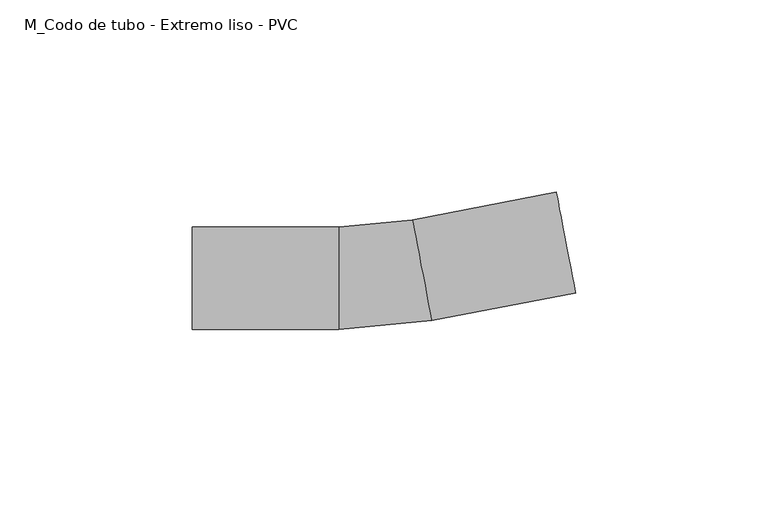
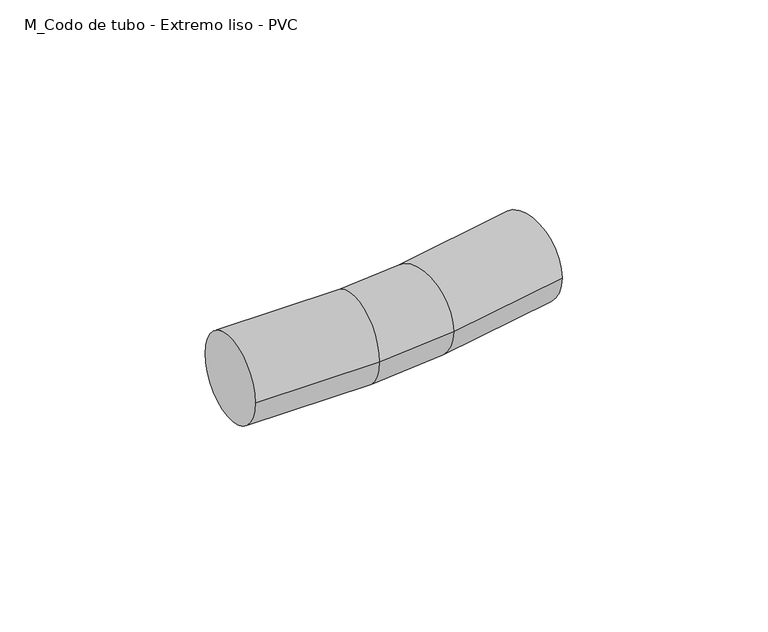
"""IFC4 building model written with IfcOpenShell, lengths in millimetres: cable carrier fitting geometry, M_Codo de tubo - Extremo liso - PVC : CODO ILUMINACION."""

from ifc_helpers import new_model, si_unit, point, frame, origin, place, context, project, spatial, circle_curve, ellipse_curve, trimmed, source, transform, mapped, element, save
from ifc_brep_helpers import plane_surface, cylinder_surface, revolved_surface, advanced_brep


def m_codo_de_tubo_extremo_liso_pvc_f0e475e2(model_context):
    return source(origin(), model_context, "Body", "AdvancedBrep", [
        advanced_brep(
        [(-48.9948498, -13.335, 0.0), (-48.9948498, 13.335, 0.0), (-10.8948498, -13.335, 0.0), (-10.8948498, 13.335, 0.0), (8.1794184, 15.1531215, 0.0), (13.2179044, -11.03662, 0.0), (50.6318208, -3.8387829, 0.0), (45.5933349, 22.3509586, 0.0)],
        [
            (0, 1, circle_curve(frame((-48.9948498, 0.0, 0.0), z_axis=(-1.0, 0.0, 0.0), x_axis=(0.0, 1.0, 0.0)), 13.335)),
            (1, 0, circle_curve(frame((-48.9948498, 0.0, 0.0), z_axis=(-1.0, 0.0, 0.0), x_axis=(0.0, 1.0, 0.0)), 13.335)),
            (0, 2),
            (2, 3, circle_curve(frame((-10.8948498, 0.0, 0.0), z_axis=(-1.0, 0.0, 0.0), x_axis=(0.0, 1.0, 0.0)), 13.335)),
            (3, 1),
            (3, 2, circle_curve(frame((-10.8948498, 0.0, 0.0), z_axis=(-1.0, 0.0, 0.0), x_axis=(0.0, 1.0, 0.0)), 13.335)),
            (4, 3, circle_curve(frame((-10.8948498, 114.3, 0.0), z_axis=(0.0, 0.0, -1.0), x_axis=(0.0, -1.0, 0.0)), 100.965)),
            (2, 5, circle_curve(frame((-10.8948498, 114.3, 0.0), z_axis=(0.0, 0.0, 1.0), x_axis=(0.0, -1.0, 0.0)), 127.635)),
            (5, 4, circle_curve(frame((10.6986614, 2.0582508, 0.0), z_axis=(-0.9819925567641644, -0.18891960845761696, 0.0), x_axis=(-0.18891960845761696, 0.9819925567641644, 0.0)), 13.335)),
            (4, 5, circle_curve(frame((10.6986614, 2.0582508, 0.0), z_axis=(-0.9819925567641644, -0.188919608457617, 0.0), x_axis=(-0.188919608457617, 0.9819925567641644, 0.0)), 13.335)),
            (6, 7, circle_curve(frame((48.1125778, 9.2560878, 0.0), z_axis=(0.9819925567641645, 0.18891960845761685, 0.0), x_axis=(-0.18891960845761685, 0.9819925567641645, 0.0)), 13.335)),
            (7, 6, circle_curve(frame((48.1125778, 9.2560878, 0.0), z_axis=(0.9819925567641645, 0.18891960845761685, 0.0), x_axis=(-0.18891960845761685, 0.9819925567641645, 0.0)), 13.335)),
            (5, 6),
            (7, 4),
        ],
        [
            plane_surface(frame((-48.9948498, 0.0, 0.0), z_axis=(-1.0, 0.0, 0.0), x_axis=(0.0, 0.0, 1.0))),
            cylinder_surface(frame((-48.9948498, 0.0, 0.0), z_axis=(-1.0, 0.0, 0.0), x_axis=(0.0, 1.0, 0.0)), 13.335),
            revolved_surface(trimmed(ellipse_curve(frame((-10.8948498, 0.0, 0.0), z_axis=(-1.0, 0.0, 0.0), x_axis=(0.0, 1.0, 0.0)), 13.335, 13.335), [point((-10.8948498, -13.335, 0.0))], [point((-10.8948498, 13.335, 0.0))], True, "CARTESIAN"), (-10.8948498, 114.3, 0.0), (0.0, 0.0, 1.0)),
            revolved_surface(trimmed(ellipse_curve(frame((-10.8948498, 0.0, 0.0), z_axis=(-1.0, 0.0, 0.0), x_axis=(0.0, 1.0, 0.0)), 13.335, 13.335), [point((-10.8948498, 13.335, 0.0))], [point((-10.8948498, -13.335, 0.0))], True, "CARTESIAN"), (-10.8948498, 114.3, 0.0), (0.0, 0.0, 1.0)),
            plane_surface(frame((48.1125778, 9.2560878, 0.0), z_axis=(0.9819925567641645, 0.18891960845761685, 0.0), x_axis=(0.0, 0.0, 1.0))),
            cylinder_surface(frame((10.6986614, 2.0582508, 0.0), z_axis=(-0.9819925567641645, -0.18891960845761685, 0.0), x_axis=(-0.18891960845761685, 0.9819925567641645, 0.0)), 13.335),
        ],
        [
            (0, [[1, 2]]),
            (1, [[-1, 3, 4, 5]]),
            (1, [[-2, -5, 6, -3]]),
            (2, [[7, -4, 8, 9]]),
            (3, [[-8, -6, -7, 10]]),
            (4, [[11, 12]]),
            (5, [[-9, 13, -12, 14]]),
            (5, [[-10, -14, -11, -13]]),
        ],
    ),
    ])


if __name__ == "__main__":
    model = new_model("IFC4")
    model_context = context("Model", 3, world=origin())
    ifc_project = project(units=[si_unit("LENGTHUNIT", "METRE", prefix="MILLI")], contexts=[model_context])
    site = spatial("IfcSite", under=ifc_project)
    building = spatial("IfcBuilding", under=site)
    placement = place(None, origin())
    m_codo_de_tubo_extremo_liso_pvc_shape = m_codo_de_tubo_extremo_liso_pvc_f0e475e2(model_context)
    element("IfcCableCarrierFitting", 1, ObjectType="M_Codo de tubo - Extremo liso - PVC : CODO ILUMINACION", at=placement, inside=building, context=model_context, shape_type="MappedRepresentation", body=[
        mapped(m_codo_de_tubo_extremo_liso_pvc_shape, transform((0.0, 0.0, 0.0), x_axis=(1.0, 0.0, 0.0), y_axis=(0.0, 1.0, 0.0), z_axis=(0.0, 0.0, 1.0))),
    ])
    save(model, "model.ifc")
